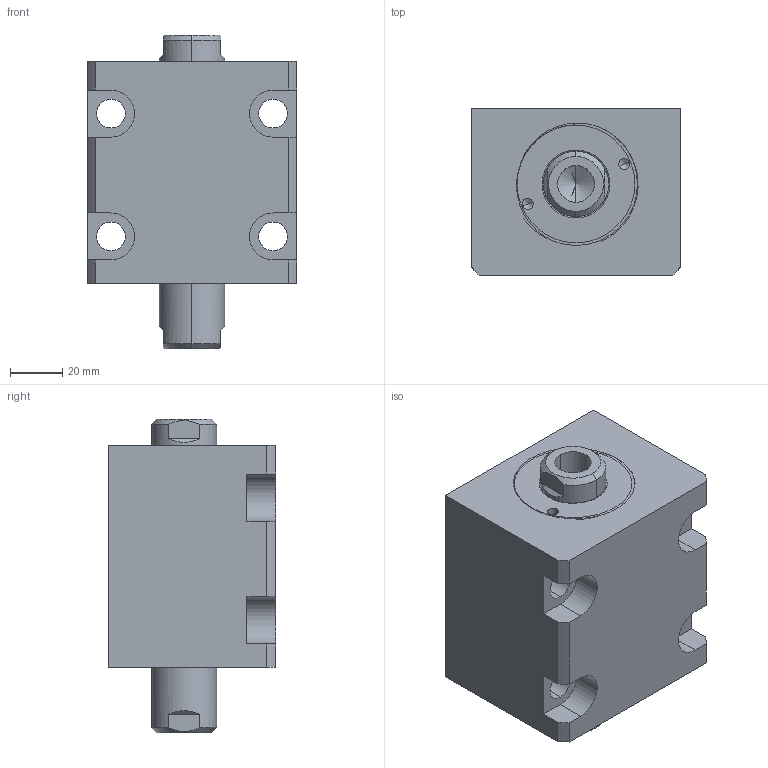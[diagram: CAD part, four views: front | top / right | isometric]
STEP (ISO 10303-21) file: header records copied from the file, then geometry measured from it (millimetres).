
FILE_DESCRIPTION (( 'STEP AP214' ), '1' );
FILE_NAME ('chtb-lwm40x15n_asm.STEP', '2018-05-30T07:57:33', ( 'Windows' ), ( 'Microsoft' ), 'SwSTEP 2.0', 'SolidWorks 2015', '' );
FILE_SCHEMA (( 'AUTOMOTIVE_DESIGN' ));
Length unit declared in the file: millimetre
Products named in the file (4): CHTB-SD40QG; CHTB-SW40X15NHSG; CHTB-LWM40X15NBT; chtb-lwm40x15n_asm
Assembly tree (3 placements, depth 2):
  chtb-lwm40x15n_asm
    CHTB-LWM40X15NBT
    CHTB-SW40X15NHSG
    CHTB-SD40QG
Bounding box: 80 x 64 x 120 mm (x, y, z)
Volume: 396885 mm3; surface area: 76852.6 mm2
Topology: 3 solids, 3 shells, 155 faces, 423 edges, 278 vertices
Faces by surface type: cylinder 74, plane 42, bspline 14, cone 13, torus 12
Entity records: 10123 total; most frequent: CARTESIAN_POINT 6101, ORIENTED_EDGE 826, DIRECTION 764, EDGE_CURVE 413, AXIS2_PLACEMENT_3D 308, VERTEX_POINT 278, EDGE_LOOP 185, CIRCLE 161
